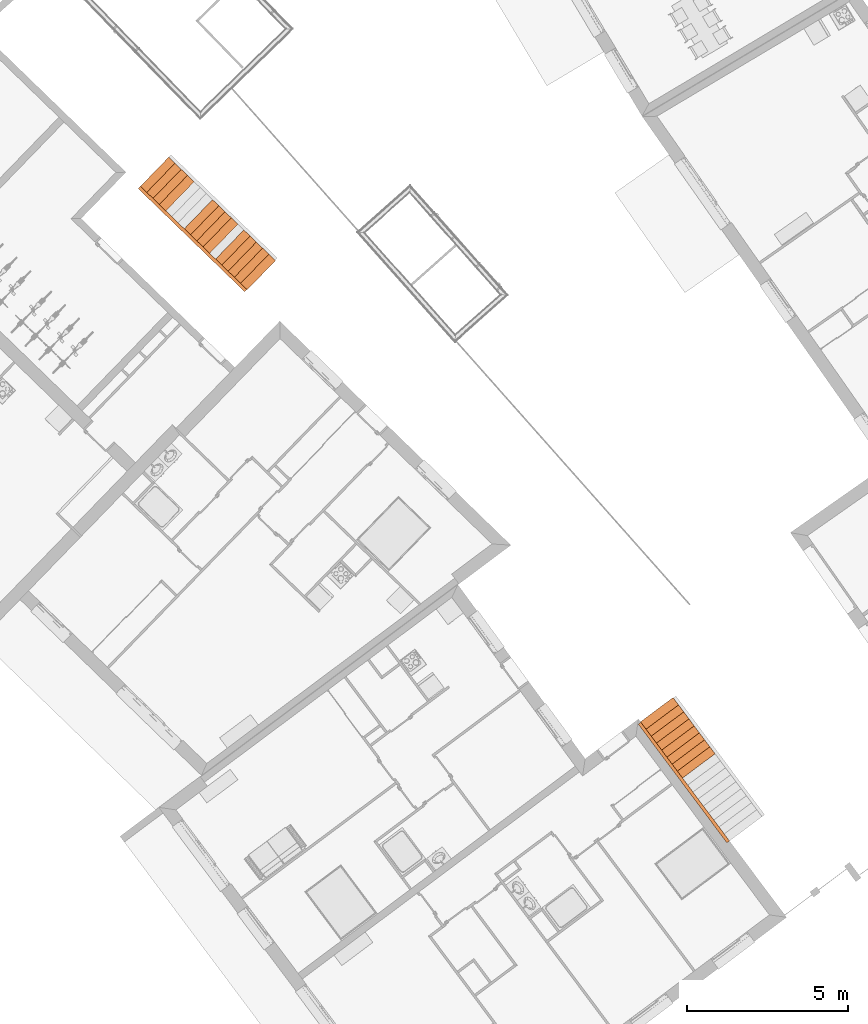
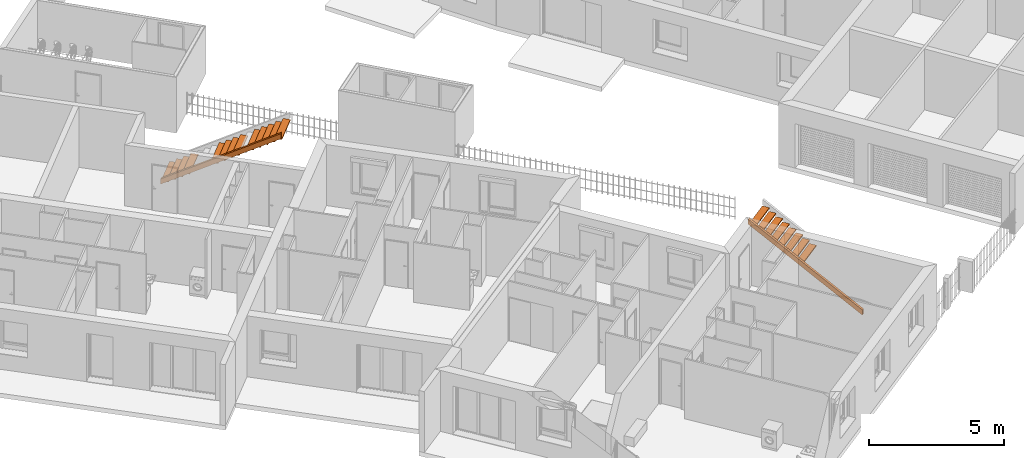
# One storey, part 182 of 195: 32 proxies, 3 elements without a shape of their own.
"""IFC2X3 building model written with IfcOpenShell, lengths in metres."""

import ifcopenshell
import ifcopenshell.guid

model = None  # the IFC model being written
_history = None  # IfcOwnerHistory: only IFC2X3 demands one
_inside = {}  # id of a spatial element -> (the spatial element, [elements in it])
_under = {}  # id of a project, library or spatial element -> (it, [spatial elements below it])
_declared = {}  # id of a project -> (the project, [libraries it declares])
_typed = {}  # id of a type object -> (the type object, [elements of that type])
_made_of = {}  # id of a material, layer set ... -> (it, [elements and type objects made of it])


def new_model(schema):
    """Start an empty IFC model of exactly this schema.

    Asked for "IFC4X3", IfcOpenShell would pick the latest addendum, in which some entities
    have other attributes; the version numbers below select the first issue.
    IFC2X3 requires an IfcOwnerHistory on every rooted entity: one is made here for all.
    """
    global model, _history
    if schema == "IFC4X3":
        model = ifcopenshell.file(schema_version=(4, 3, 0, 0))
    else:
        model = ifcopenshell.file(schema=schema)
    _inside.clear()
    _under.clear()
    _declared.clear()
    _typed.clear()
    _made_of.clear()
    _history = None
    if model.schema == "IFC2X3":
        org = make("IfcOrganization", Name="unknown")
        user = make(
            "IfcPersonAndOrganization",
            ThePerson=make("IfcPerson", FamilyName="unknown"),
            TheOrganization=org,
        )
        app = make(
            "IfcApplication",
            ApplicationDeveloper=org,
            Version="unknown",
            ApplicationFullName="unknown",
            ApplicationIdentifier="unknown",
        )
        _history = make(
            "IfcOwnerHistory",
            OwningUser=user,
            OwningApplication=app,
            ChangeAction="ADDED",
            CreationDate=0,
        )
    return model


def make(cls, **values):
    """One entity of the class cls with the attributes given. An attribute that is None is left unset."""
    return model.create_entity(
        cls, **{name: value for name, value in values.items() if value is not None}
    )


def entity(cls, *values):
    """Any entity or typed value of the class cls, its attributes in the order of the schema. None: left unset."""
    e = model.create_entity(cls)
    for i, value in enumerate(values):
        if value is not None:
            e[i] = value
    return e


def rooted(cls, **values):
    """An entity with a GlobalId (a new one), such as an element, a storey or a relation."""
    return make(cls, GlobalId=ifcopenshell.guid.new(), OwnerHistory=_history, **values)


def si_unit(unit_type, name, prefix=None):
    """IfcSIUnit, for example si_unit("LENGTHUNIT", "METRE", prefix="MILLI")."""
    return make("IfcSIUnit", UnitType=unit_type, Prefix=prefix, Name=name)


def converted_unit(unit_type, name, factor, base, dimensions=None, offset=None):
    """IfcConversionBasedUnit, such as the inch: factor (a typed value) times the base unit."""
    return make(
        "IfcConversionBasedUnit"
        if offset is None
        else "IfcConversionBasedUnitWithOffset",
        ConversionOffset=offset,
        Dimensions=None
        if dimensions is None
        else entity("IfcDimensionalExponents", *dimensions),
        UnitType=unit_type,
        Name=name,
        ConversionFactor=make(
            "IfcMeasureWithUnit", ValueComponent=factor, UnitComponent=base
        ),
    )


def derived_unit(unit_type, elements):
    """IfcDerivedUnit: a product of units, each with its exponent."""
    return make(
        "IfcDerivedUnit",
        Elements=[
            make("IfcDerivedUnitElement", Unit=unit, Exponent=power)
            for unit, power in elements
        ],
        UnitType=unit_type,
    )


def money_unit(currency):
    """IfcMonetaryUnit."""
    return make("IfcMonetaryUnit", Currency=currency)


def assignment(units):
    """IfcUnitAssignment: the units of a project."""
    return None if units is None else make("IfcUnitAssignment", Units=units)


def point(xyz):
    """IfcCartesianPoint."""
    return None if xyz is None else make("IfcCartesianPoint", Coordinates=xyz)


def direction(xyz):
    """IfcDirection."""
    return None if xyz is None else make("IfcDirection", DirectionRatios=xyz)


def frame(location, z_axis=None, x_axis=None):
    """IfcAxis2Placement3D, a coordinate frame: its origin and axes. An axis left out is left unset."""
    return make(
        "IfcAxis2Placement3D",
        Location=point(location),
        Axis=direction(z_axis),
        RefDirection=direction(x_axis),
    )


def origin_with_axes():
    """The frame at (0, 0, 0) with the z axis (0, 0, 1) and the x axis (1, 0, 0) written out."""
    return frame((0.0, 0.0, 0.0), z_axis=(0.0, 0.0, 1.0), x_axis=(1.0, 0.0, 0.0))


def place(relative_to, where):
    """IfcLocalPlacement: puts the frame where relative to a parent placement (None: the world)."""
    return make(
        "IfcLocalPlacement", PlacementRelTo=relative_to, RelativePlacement=where
    )


def context(
    kind, dimensions, precision=None, world=None, true_north=None, identifier=None
):
    """IfcGeometricRepresentationContext, for example the 3D "Model" context."""
    return make(
        "IfcGeometricRepresentationContext",
        ContextIdentifier=identifier,
        ContextType=kind,
        CoordinateSpaceDimension=dimensions,
        Precision=precision,
        WorldCoordinateSystem=world,
        TrueNorth=true_north,
    )


def subcontext(parent, identifier, kind, view, scale=None):
    """IfcGeometricRepresentationSubContext, for example "Body" below "Model"."""
    return make(
        "IfcGeometricRepresentationSubContext",
        ContextIdentifier=identifier,
        ContextType=kind,
        ParentContext=parent,
        TargetScale=scale,
        TargetView=view,
    )


def project(units=None, contexts=None):
    """IfcProject with its units and contexts."""
    return rooted(
        "IfcProject",
        Name="project",
        RepresentationContexts=contexts,
        UnitsInContext=assignment(units),
    )


def spatial(cls, under=None, at=None, **own):
    """A site, building, storey or space (cls), placed at a placement, below another one or the project."""
    s = rooted(cls, ObjectPlacement=at, **own)
    if under is not None:
        _under.setdefault(under.id(), (under, []))[1].append(s)
    return s


def faces_of(points, faces, orient=None, outer=None):
    """IfcFace entities. A face is a list of loops; a loop is a list of indices into points, from 0.

    orient and outer hold one flag for each loop. By default every Orientation is true, the
    first loop of a face is its IfcFaceOuterBound and the others are IfcFaceBound.
    """
    made = []
    for i, loops in enumerate(faces):
        bounds = []
        for j, loop in enumerate(loops):
            is_outer = j == 0 if outer is None else outer[i][j]
            bounds.append(
                make(
                    "IfcFaceOuterBound" if is_outer else "IfcFaceBound",
                    Bound=make("IfcPolyLoop", Polygon=[points[k] for k in loop]),
                    Orientation=True if orient is None else orient[i][j],
                )
            )
        made.append(make("IfcFace", Bounds=bounds))
    return made


def faceted_brep(points, faces, orient=None, outer=None, voids=None):
    """IfcFacetedBrep: a solid bounded by flat faces; with voids (closed shells), ...WithVoids."""
    shared = [point(p) for p in points]
    hull = make("IfcClosedShell", CfsFaces=faces_of(shared, faces, orient, outer))
    if voids is None:
        return make("IfcFacetedBrep", Outer=hull)
    return make(
        "IfcFacetedBrepWithVoids",
        Outer=hull,
        Voids=[
            make(cls, CfsFaces=faces_of(shared, fs, o, b)) for cls, fs, o, b in voids
        ],
    )


def shape(context_of_items, identifier, shape_type, items):
    """IfcShapeRepresentation: the items that make up one representation, for example the "Body"."""
    return make(
        "IfcShapeRepresentation",
        ContextOfItems=context_of_items,
        RepresentationIdentifier=identifier,
        RepresentationType=shape_type,
        Items=items,
    )


def material(Name=None, Category=None):
    """IfcMaterial."""
    return make("IfcMaterial", Name=Name, Category=Category)


def made_of(thing, what):
    """Note that an element or type object is made of a material, layer set ...; save() writes the relation."""
    if what is not None:
        _made_of.setdefault(what.id(), (what, []))[1].append(thing)
    return thing


def type_object(cls, material=None, **own):
    """A type object (cls), such as IfcWallType, which elements share."""
    return made_of(rooted(cls, **own), material)


def element(
    cls,
    number,
    at=None,
    inside=None,
    cuts=None,
    type_object=None,
    material=None,
    context=None,
    identifier="Body",
    shape_type=None,
    held_by="IfcProductDefinitionShape",
    body=None,
    shapes=None,
    **own,
):
    """One element of the class cls, such as IfcWall. Its Tag is "e" and its number.

    at: its placement. inside: the storey or other place that contains it. cuts: it is an
    opening in that element (IfcRelVoidsElement). A single representation is given by context,
    identifier, shape_type and body (its items); several are given by shapes. held_by: the class
    of the entity that holds the representations. save() writes the other relations.
    """
    e = rooted(cls, Tag="e%d" % number, ObjectPlacement=at, **own)
    if body is not None:
        shapes = [shape(context, identifier, shape_type, body)]
    if shapes is not None:
        e.Representation = make(held_by, Representations=shapes)
    if inside is not None:
        _inside.setdefault(inside.id(), (inside, []))[1].append(e)
    if cuts is not None:
        rooted(
            "IfcRelVoidsElement", RelatingBuildingElement=cuts, RelatedOpeningElement=e
        )
    if type_object is not None:
        _typed.setdefault(type_object.id(), (type_object, []))[1].append(e)
    return made_of(e, material)


def aggregate(whole, parts):
    """IfcRelAggregates: a whole, such as a stair, and the parts it consists of."""
    return rooted("IfcRelAggregates", RelatingObject=whole, RelatedObjects=parts)


def save(model, path):
    """Write the relations noted so far, then the file.

    IfcRelAggregates (storeys below a building ...), IfcRelContainedInSpatialStructure (elements
    in a storey), IfcRelDefinesByType, IfcRelAssociatesMaterial and IfcRelDeclares: one each for
    every whole, place, type object, material and project.
    """
    for whole, parts in _under.values():
        aggregate(whole, parts)
    for where, things in _inside.values():
        rooted(
            "IfcRelContainedInSpatialStructure",
            RelatedElements=things,
            RelatingStructure=where,
        )
    for kind, things in _typed.values():
        rooted("IfcRelDefinesByType", RelatedObjects=things, RelatingType=kind)
    for what, things in _made_of.values():
        rooted("IfcRelAssociatesMaterial", RelatedObjects=things, RelatingMaterial=what)
    for by, libraries in _declared.values():
        rooted("IfcRelDeclares", RelatingContext=by, RelatedDefinitions=libraries)
    model.write(path)


model = new_model("IFC2X3")

# Units and contexts
model_context = context("Model", 3, precision=1e-05, world=origin_with_axes(), true_north=direction((0.0, 1.0)))
body_context = subcontext(model_context, "Body", "Model", "MODEL_VIEW")
ifc_project = project(units=[si_unit("LENGTHUNIT", "METRE"), si_unit("AREAUNIT", "SQUARE_METRE"), si_unit("VOLUMEUNIT", "CUBIC_METRE"), converted_unit("PLANEANGLEUNIT", "DEGREE", entity("IfcPlaneAngleMeasure", 0.0174532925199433), si_unit("PLANEANGLEUNIT", "RADIAN"), dimensions=[0, 0, 0, 0, 0, 0, 0]), money_unit("CHF"), converted_unit("TIMEUNIT", "Year", entity("IfcTimeMeasure", 31557600.0), si_unit("TIMEUNIT", "SECOND"), dimensions=[0, 0, 1, 0, 0, 0, 0]), si_unit("MASSUNIT", "GRAM", prefix="KILO"), si_unit("THERMODYNAMICTEMPERATUREUNIT", "DEGREE_CELSIUS"), si_unit("LUMINOUSINTENSITYUNIT", "LUMEN"), si_unit("ENERGYUNIT", "JOULE", prefix="MEGA"), derived_unit("THERMALCONDUCTANCEUNIT", [(si_unit("POWERUNIT", "WATT"), 1), (si_unit("LENGTHUNIT", "METRE"), -1), (si_unit("THERMODYNAMICTEMPERATUREUNIT", "KELVIN"), -1)]), derived_unit("SPECIFICHEATCAPACITYUNIT", [(si_unit("ENERGYUNIT", "JOULE"), 1), (si_unit("MASSUNIT", "GRAM", prefix="KILO"), -1), (si_unit("THERMODYNAMICTEMPERATUREUNIT", "KELVIN"), -1)]), derived_unit("MASSDENSITYUNIT", [(si_unit("MASSUNIT", "GRAM", prefix="KILO"), 1), (si_unit("VOLUMEUNIT", "CUBIC_METRE"), -1)])], contexts=[model_context])

# Site, building, storey
site_placement = place(None, origin_with_axes())
site = spatial("IfcSite", under=ifc_project, at=site_placement, Name="Site", CompositionType="ELEMENT")
building_placement = place(site_placement, origin_with_axes())
building = spatial("IfcBuilding", under=site, at=building_placement, Name="Bâtiment", CompositionType="ELEMENT")
storey_placement = place(building_placement, origin_with_axes())
storey = spatial("IfcBuildingStorey", under=building, at=storey_placement, Name="rdc", CompositionType="ELEMENT", Elevation=0.0)

# Stair, proxies
stair_1_placement = place(storey_placement, frame((9546.930300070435, -1076.908665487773, 57.33248236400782), z_axis=(0.0, 0.0, 1.0), x_axis=(0.7879032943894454, -0.6157989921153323, 0.0)))
stair_1 = element("IfcStair", 1, at=stair_1_placement, inside=storey, Name="ESC-028", ShapeType="NOTDEFINED")
ifc_material_1 = material(Name="Isolant styromousse 288701002")
building_element_proxy_type = type_object("IfcBuildingElementProxyType", Name="IfcBuildingElementProxy", PredefinedType="NOTDEFINED")
proxy_1_placement = place(stair_1_placement, origin_with_axes())
proxy_1 = element("IfcBuildingElementProxy", 2, at=proxy_1_placement, type_object=building_element_proxy_type, material=ifc_material_1, Name="SS - 039", context=body_context, shape_type="Brep", body=[
    faceted_brep([(-4.785391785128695, -0.1038036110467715, 2.882482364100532), (-0.3566463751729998, -1.309753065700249, 0.04914903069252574), (-0.3566463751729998, -1.309753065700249, 0.2841843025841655), (-4.785391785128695, -0.1038036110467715, 3.117517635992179), (-4.75911837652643, -0.007316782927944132, 2.882482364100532), (-0.3303729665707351, -1.213266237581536, 0.04914903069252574), (-0.3303729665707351, -1.213266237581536, 0.2841843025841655), (-4.75911837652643, -0.007316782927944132, 3.117517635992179)], [[[0, 1, 2, 3]], [[4, 5, 1, 0]], [[2, 1, 5, 6]], [[3, 2, 6, 7]], [[7, 4, 0, 3]], [[7, 6, 5, 4]]]),
])
ifc_material_2 = material(Name="Lame d'air 275581351")
proxy_2_placement = place(stair_1_placement, frame((-2.732570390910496, 0.2414209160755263, 1.833333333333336), z_axis=(0.0, 0.0, 1.0), x_axis=(-0.2627340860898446, -0.9648682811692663, 0.0)))
proxy_2 = element("IfcBuildingElementProxy", 3, at=proxy_2_placement, type_object=building_element_proxy_type, material=ifc_material_2, Name="MARCHE-547", context=body_context, shape_type="Brep", body=[
    faceted_brep([(-0.4850000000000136, 0.0, -0.04999999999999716), (-0.4850000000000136, 0.0, 0.0), (0.7724423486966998, -2.853539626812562e-10, 0.0), (0.7724423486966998, -2.853539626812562e-10, -0.04999999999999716), (-0.4849999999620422, -0.2849999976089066, -0.04999999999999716), (-0.4849999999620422, -0.2849999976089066, 0.0), (0.7724423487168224, -0.2849999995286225, 0.0), (0.7724423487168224, -0.2849999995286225, -0.04999999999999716)], [[[0, 1, 2, 3]], [[4, 5, 1, 0]], [[1, 5, 6, 2]], [[3, 2, 6, 7]], [[0, 3, 7, 4]], [[7, 6, 5, 4]]]),
])
proxy_3_placement = place(stair_1_placement, frame((-2.472055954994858, 0.1704827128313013, 1.666666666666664), z_axis=(0.0, 0.0, 1.0), x_axis=(-0.2627340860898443, -0.9648682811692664, 0.0)))
proxy_3 = element("IfcBuildingElementProxy", 4, at=proxy_3_placement, type_object=building_element_proxy_type, material=ifc_material_2, Name="MARCHE-546", context=body_context, shape_type="Brep", body=[
    faceted_brep([(-0.4849999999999, 0.0, -0.04999999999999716), (-0.4849999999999, 0.0, 0.0), (0.7724423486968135, -2.853539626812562e-10, 0.0), (0.7724423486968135, -2.853539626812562e-10, -0.04999999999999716), (-0.4849999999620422, -0.2849999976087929, -0.04999999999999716), (-0.4849999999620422, -0.2849999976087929, 0.0), (0.7724423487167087, -0.2849999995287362, 0.0), (0.7724423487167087, -0.2849999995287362, -0.04999999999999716)], [[[0, 1, 2, 3]], [[4, 5, 1, 0]], [[1, 5, 6, 2]], [[3, 2, 6, 7]], [[0, 3, 7, 4]], [[7, 6, 5, 4]]]),
])
proxy_4_placement = place(stair_1_placement, frame((-2.993084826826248, 0.3123591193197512, 2.0), z_axis=(0.0, 0.0, 1.0), x_axis=(-0.2627340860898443, -0.9648682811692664, 0.0)))
proxy_4 = element("IfcBuildingElementProxy", 5, at=proxy_4_placement, type_object=building_element_proxy_type, material=ifc_material_2, Name="MARCHE-548", context=body_context, shape_type="Brep", body=[
    faceted_brep([(-0.4850000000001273, 0.0, -0.04999999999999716), (-0.4850000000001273, 0.0, 0.0), (0.7724423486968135, -2.854676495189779e-10, 0.0), (0.7724423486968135, -2.854676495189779e-10, -0.04999999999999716), (-0.4849999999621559, -0.2849999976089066, -0.04999999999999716), (-0.4849999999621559, -0.2849999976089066, 0.0), (0.7724423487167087, -0.2849999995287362, 0.0), (0.7724423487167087, -0.2849999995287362, -0.04999999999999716)], [[[0, 1, 2, 3]], [[4, 5, 1, 0]], [[1, 5, 6, 2]], [[3, 2, 6, 7]], [[0, 3, 7, 4]], [[7, 6, 5, 4]]]),
])
proxy_5_placement = place(stair_1_placement, frame((-3.253599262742, 0.383297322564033, 2.166666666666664), z_axis=(0.0, 0.0, 1.0), x_axis=(-0.2627340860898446, -0.9648682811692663, 0.0)))
proxy_5 = element("IfcBuildingElementProxy", 6, at=proxy_5_placement, type_object=building_element_proxy_type, material=ifc_material_2, Name="MARCHE-549", context=body_context, shape_type="Brep", body=[
    faceted_brep([(-0.4849999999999, 0.0, -0.04999999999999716), (-0.4849999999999, 0.0, 0.0), (0.7724423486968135, -2.853539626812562e-10, 0.0), (0.7724423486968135, -2.853539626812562e-10, -0.04999999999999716), (-0.4849999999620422, -0.2849999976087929, -0.04999999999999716), (-0.4849999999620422, -0.2849999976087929, 0.0), (0.7724423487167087, -0.2849999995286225, 0.0), (0.7724423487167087, -0.2849999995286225, -0.04999999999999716)], [[[0, 1, 2, 3]], [[4, 5, 1, 0]], [[1, 5, 6, 2]], [[3, 2, 6, 7]], [[0, 3, 7, 4]], [[7, 6, 5, 4]]]),
])
proxy_6_placement = place(stair_1_placement, frame((-3.774628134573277, 0.5251737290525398, 2.5), z_axis=(0.0, 0.0, 1.0), x_axis=(-0.2627340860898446, -0.9648682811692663, 0.0)))
proxy_6 = element("IfcBuildingElementProxy", 7, at=proxy_6_placement, type_object=building_element_proxy_type, material=ifc_material_2, Name="MARCHE-551", context=body_context, shape_type="Brep", body=[
    faceted_brep([(-0.4849999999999, 0.0, -0.04999999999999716), (-0.4849999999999, 0.0, 0.0), (0.7724423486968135, -2.854676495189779e-10, 0.0), (0.7724423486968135, -2.854676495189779e-10, -0.04999999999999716), (-0.4849999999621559, -0.2849999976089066, -0.04999999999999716), (-0.4849999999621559, -0.2849999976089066, 0.0), (0.7724423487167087, -0.2849999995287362, 0.0), (0.7724423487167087, -0.2849999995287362, -0.04999999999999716)], [[[0, 1, 2, 3]], [[4, 5, 1, 0]], [[1, 5, 6, 2]], [[3, 2, 6, 7]], [[0, 3, 7, 4]], [[7, 6, 5, 4]]]),
])
proxy_7_placement = place(stair_1_placement, frame((-3.514113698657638, 0.4542355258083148, 2.333333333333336), z_axis=(0.0, 0.0, 1.0), x_axis=(-0.2627340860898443, -0.9648682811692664, 0.0)))
proxy_7 = element("IfcBuildingElementProxy", 8, at=proxy_7_placement, type_object=building_element_proxy_type, material=ifc_material_2, Name="MARCHE-550", context=body_context, shape_type="Brep", body=[
    faceted_brep([(-0.4850000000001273, 0.0, -0.04999999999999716), (-0.4850000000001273, 0.0, 0.0), (0.7724423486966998, -2.852402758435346e-10, 0.0), (0.7724423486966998, -2.852402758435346e-10, -0.04999999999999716), (-0.4849999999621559, -0.2849999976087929, -0.04999999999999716), (-0.4849999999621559, -0.2849999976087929, 0.0), (0.7724423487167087, -0.2849999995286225, 0.0), (0.7724423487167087, -0.2849999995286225, -0.04999999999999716)], [[[0, 1, 2, 3]], [[4, 5, 1, 0]], [[1, 5, 6, 2]], [[3, 2, 6, 7]], [[0, 3, 7, 4]], [[7, 6, 5, 4]]]),
])
proxy_8_placement = place(stair_1_placement, frame((-4.035142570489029, 0.5961119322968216, 2.666666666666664), z_axis=(0.0, 0.0, 1.0), x_axis=(-0.2627340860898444, -0.9648682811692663, 0.0)))
proxy_8 = element("IfcBuildingElementProxy", 9, at=proxy_8_placement, type_object=building_element_proxy_type, material=ifc_material_2, Name="MARCHE-552", context=body_context, shape_type="Brep", body=[
    faceted_brep([(-0.4850000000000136, 0.0, -0.04999999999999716), (-0.4850000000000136, 0.0, 0.0), (0.7724423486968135, -2.853539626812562e-10, 0.0), (0.7724423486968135, -2.853539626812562e-10, -0.04999999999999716), (-0.4849999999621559, -0.2849999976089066, -0.04999999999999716), (-0.4849999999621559, -0.2849999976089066, 0.0), (0.7724423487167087, -0.2849999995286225, 0.0), (0.7724423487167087, -0.2849999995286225, -0.04999999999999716)], [[[0, 1, 2, 3]], [[4, 5, 1, 0]], [[1, 5, 6, 2]], [[3, 2, 6, 7]], [[0, 3, 7, 4]], [[7, 6, 5, 4]]]),
])
proxy_9_placement = place(stair_1_placement, frame((-4.295657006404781, 0.6670501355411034, 2.833333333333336), z_axis=(0.0, 0.0, 1.0), x_axis=(-0.2627340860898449, -0.9648682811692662, 0.0)))
proxy_9 = element("IfcBuildingElementProxy", 10, at=proxy_9_placement, type_object=building_element_proxy_type, material=ifc_material_2, Name="MARCHE-553", context=body_context, shape_type="Brep", body=[
    faceted_brep([(-0.4849999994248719, 0.0, -0.04999999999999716), (-0.4849999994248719, 0.0, 0.0), (0.772442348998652, 0.0, 0.0), (0.772442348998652, 0.0, -0.04999999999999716), (-0.4849999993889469, -0.2699999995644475, -0.04999999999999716), (-0.4849999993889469, -0.2699999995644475, 0.0), (-0.4849999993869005, -0.2849999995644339, 0.0), (0.7724423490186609, -0.2849999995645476, 0.0), (0.7724423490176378, -0.2699999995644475, 0.0), (0.7724423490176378, -0.2699999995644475, -0.04999999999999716), (0.7724423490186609, -0.2849999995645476, -0.04999999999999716), (-0.4849999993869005, -0.2849999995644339, -0.04999999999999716)], [[[0, 1, 2, 3]], [[4, 5, 1, 0]], [[1, 5, 6, 7, 8, 2]], [[3, 2, 8, 9]], [[0, 3, 9, 10, 11, 4]], [[11, 6, 5, 4]], [[10, 7, 6, 11]], [[9, 8, 7, 10]]]),
])
aggregate(stair_1, [proxy_1, proxy_2, proxy_3, proxy_4, proxy_5, proxy_6, proxy_7, proxy_8, proxy_9])

stair_2_placement = place(storey_placement, frame((9546.930300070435, -1076.908665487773, 57.33248236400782), z_axis=(0.0, 0.0, 1.0), x_axis=(0.7879032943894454, -0.6157989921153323, 0.0)))
stair_2 = element("IfcStair", 11, at=stair_2_placement, inside=storey, Name="ESC-028", ShapeType="NOTDEFINED")
proxy_10_placement = place(stair_2_placement, origin_with_axes())
proxy_10 = element("IfcBuildingElementProxy", 12, at=proxy_10_placement, type_object=building_element_proxy_type, material=ifc_material_1, Name="SS - 039", context=body_context, shape_type="Brep", body=[
    faceted_brep([(-4.785391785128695, -0.1038036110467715, 2.882482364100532), (-0.3566463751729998, -1.309753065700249, 0.04914903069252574), (-0.3566463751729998, -1.309753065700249, 0.2841843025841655), (-4.785391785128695, -0.1038036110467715, 3.117517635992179), (-4.75911837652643, -0.007316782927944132, 2.882482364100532), (-0.3303729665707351, -1.213266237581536, 0.04914903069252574), (-0.3303729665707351, -1.213266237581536, 0.2841843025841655), (-4.75911837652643, -0.007316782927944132, 3.117517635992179)], [[[0, 1, 2, 3]], [[4, 5, 1, 0]], [[2, 1, 5, 6]], [[3, 2, 6, 7]], [[7, 4, 0, 3]], [[7, 6, 5, 4]]]),
])
proxy_11_placement = place(stair_2_placement, frame((-2.472055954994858, 0.1704827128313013, 1.666666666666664), z_axis=(0.0, 0.0, 1.0), x_axis=(-0.2627340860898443, -0.9648682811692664, 0.0)))
proxy_11 = element("IfcBuildingElementProxy", 13, at=proxy_11_placement, type_object=building_element_proxy_type, material=ifc_material_2, Name="MARCHE-546", context=body_context, shape_type="Brep", body=[
    faceted_brep([(-0.4849999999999, 0.0, -0.04999999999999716), (-0.4849999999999, 0.0, 0.0), (0.7724423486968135, -2.853539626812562e-10, 0.0), (0.7724423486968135, -2.853539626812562e-10, -0.04999999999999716), (-0.4849999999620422, -0.2849999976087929, -0.04999999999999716), (-0.4849999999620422, -0.2849999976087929, 0.0), (0.7724423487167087, -0.2849999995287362, 0.0), (0.7724423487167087, -0.2849999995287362, -0.04999999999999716)], [[[0, 1, 2, 3]], [[4, 5, 1, 0]], [[1, 5, 6, 2]], [[3, 2, 6, 7]], [[0, 3, 7, 4]], [[7, 6, 5, 4]]]),
])
proxy_12_placement = place(stair_2_placement, frame((-2.732570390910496, 0.2414209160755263, 1.833333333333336), z_axis=(0.0, 0.0, 1.0), x_axis=(-0.2627340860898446, -0.9648682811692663, 0.0)))
proxy_12 = element("IfcBuildingElementProxy", 14, at=proxy_12_placement, type_object=building_element_proxy_type, material=ifc_material_2, Name="MARCHE-547", context=body_context, shape_type="Brep", body=[
    faceted_brep([(-0.4850000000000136, 0.0, -0.04999999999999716), (-0.4850000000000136, 0.0, 0.0), (0.7724423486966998, -2.853539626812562e-10, 0.0), (0.7724423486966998, -2.853539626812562e-10, -0.04999999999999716), (-0.4849999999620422, -0.2849999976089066, -0.04999999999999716), (-0.4849999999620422, -0.2849999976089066, 0.0), (0.7724423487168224, -0.2849999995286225, 0.0), (0.7724423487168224, -0.2849999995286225, -0.04999999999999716)], [[[0, 1, 2, 3]], [[4, 5, 1, 0]], [[1, 5, 6, 2]], [[3, 2, 6, 7]], [[0, 3, 7, 4]], [[7, 6, 5, 4]]]),
])
proxy_13_placement = place(stair_2_placement, frame((-2.993084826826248, 0.3123591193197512, 2.0), z_axis=(0.0, 0.0, 1.0), x_axis=(-0.2627340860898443, -0.9648682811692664, 0.0)))
proxy_13 = element("IfcBuildingElementProxy", 15, at=proxy_13_placement, type_object=building_element_proxy_type, material=ifc_material_2, Name="MARCHE-548", context=body_context, shape_type="Brep", body=[
    faceted_brep([(-0.4850000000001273, 0.0, -0.04999999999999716), (-0.4850000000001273, 0.0, 0.0), (0.7724423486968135, -2.854676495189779e-10, 0.0), (0.7724423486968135, -2.854676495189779e-10, -0.04999999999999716), (-0.4849999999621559, -0.2849999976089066, -0.04999999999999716), (-0.4849999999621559, -0.2849999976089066, 0.0), (0.7724423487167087, -0.2849999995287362, 0.0), (0.7724423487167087, -0.2849999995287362, -0.04999999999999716)], [[[0, 1, 2, 3]], [[4, 5, 1, 0]], [[1, 5, 6, 2]], [[3, 2, 6, 7]], [[0, 3, 7, 4]], [[7, 6, 5, 4]]]),
])
proxy_14_placement = place(stair_2_placement, frame((-3.514113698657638, 0.4542355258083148, 2.333333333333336), z_axis=(0.0, 0.0, 1.0), x_axis=(-0.2627340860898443, -0.9648682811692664, 0.0)))
proxy_14 = element("IfcBuildingElementProxy", 16, at=proxy_14_placement, type_object=building_element_proxy_type, material=ifc_material_2, Name="MARCHE-550", context=body_context, shape_type="Brep", body=[
    faceted_brep([(-0.4850000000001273, 0.0, -0.04999999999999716), (-0.4850000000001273, 0.0, 0.0), (0.7724423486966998, -2.852402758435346e-10, 0.0), (0.7724423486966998, -2.852402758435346e-10, -0.04999999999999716), (-0.4849999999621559, -0.2849999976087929, -0.04999999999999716), (-0.4849999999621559, -0.2849999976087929, 0.0), (0.7724423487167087, -0.2849999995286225, 0.0), (0.7724423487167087, -0.2849999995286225, -0.04999999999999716)], [[[0, 1, 2, 3]], [[4, 5, 1, 0]], [[1, 5, 6, 2]], [[3, 2, 6, 7]], [[0, 3, 7, 4]], [[7, 6, 5, 4]]]),
])
proxy_15_placement = place(stair_2_placement, frame((-3.774628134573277, 0.5251737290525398, 2.5), z_axis=(0.0, 0.0, 1.0), x_axis=(-0.2627340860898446, -0.9648682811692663, 0.0)))
proxy_15 = element("IfcBuildingElementProxy", 17, at=proxy_15_placement, type_object=building_element_proxy_type, material=ifc_material_2, Name="MARCHE-551", context=body_context, shape_type="Brep", body=[
    faceted_brep([(-0.4849999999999, 0.0, -0.04999999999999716), (-0.4849999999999, 0.0, 0.0), (0.7724423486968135, -2.854676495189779e-10, 0.0), (0.7724423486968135, -2.854676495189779e-10, -0.04999999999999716), (-0.4849999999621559, -0.2849999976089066, -0.04999999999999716), (-0.4849999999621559, -0.2849999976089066, 0.0), (0.7724423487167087, -0.2849999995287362, 0.0), (0.7724423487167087, -0.2849999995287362, -0.04999999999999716)], [[[0, 1, 2, 3]], [[4, 5, 1, 0]], [[1, 5, 6, 2]], [[3, 2, 6, 7]], [[0, 3, 7, 4]], [[7, 6, 5, 4]]]),
])
proxy_16_placement = place(stair_2_placement, frame((-4.035142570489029, 0.5961119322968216, 2.666666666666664), z_axis=(0.0, 0.0, 1.0), x_axis=(-0.2627340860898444, -0.9648682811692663, 0.0)))
proxy_16 = element("IfcBuildingElementProxy", 18, at=proxy_16_placement, type_object=building_element_proxy_type, material=ifc_material_2, Name="MARCHE-552", context=body_context, shape_type="Brep", body=[
    faceted_brep([(-0.4850000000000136, 0.0, -0.04999999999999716), (-0.4850000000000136, 0.0, 0.0), (0.7724423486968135, -2.853539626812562e-10, 0.0), (0.7724423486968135, -2.853539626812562e-10, -0.04999999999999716), (-0.4849999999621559, -0.2849999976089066, -0.04999999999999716), (-0.4849999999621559, -0.2849999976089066, 0.0), (0.7724423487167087, -0.2849999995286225, 0.0), (0.7724423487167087, -0.2849999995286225, -0.04999999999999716)], [[[0, 1, 2, 3]], [[4, 5, 1, 0]], [[1, 5, 6, 2]], [[3, 2, 6, 7]], [[0, 3, 7, 4]], [[7, 6, 5, 4]]]),
])
proxy_17_placement = place(stair_2_placement, frame((-3.253599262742, 0.383297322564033, 2.166666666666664), z_axis=(0.0, 0.0, 1.0), x_axis=(-0.2627340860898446, -0.9648682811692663, 0.0)))
proxy_17 = element("IfcBuildingElementProxy", 19, at=proxy_17_placement, type_object=building_element_proxy_type, material=ifc_material_2, Name="MARCHE-549", context=body_context, shape_type="Brep", body=[
    faceted_brep([(-0.4849999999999, 0.0, -0.04999999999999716), (-0.4849999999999, 0.0, 0.0), (0.7724423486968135, -2.853539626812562e-10, 0.0), (0.7724423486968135, -2.853539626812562e-10, -0.04999999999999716), (-0.4849999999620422, -0.2849999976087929, -0.04999999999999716), (-0.4849999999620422, -0.2849999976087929, 0.0), (0.7724423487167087, -0.2849999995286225, 0.0), (0.7724423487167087, -0.2849999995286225, -0.04999999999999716)], [[[0, 1, 2, 3]], [[4, 5, 1, 0]], [[1, 5, 6, 2]], [[3, 2, 6, 7]], [[0, 3, 7, 4]], [[7, 6, 5, 4]]]),
])
proxy_18_placement = place(stair_2_placement, frame((-4.295657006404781, 0.6670501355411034, 2.833333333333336), z_axis=(0.0, 0.0, 1.0), x_axis=(-0.2627340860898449, -0.9648682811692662, 0.0)))
proxy_18 = element("IfcBuildingElementProxy", 20, at=proxy_18_placement, type_object=building_element_proxy_type, material=ifc_material_2, Name="MARCHE-553", context=body_context, shape_type="Brep", body=[
    faceted_brep([(-0.4849999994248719, 0.0, -0.04999999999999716), (-0.4849999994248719, 0.0, 0.0), (0.772442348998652, 0.0, 0.0), (0.772442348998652, 0.0, -0.04999999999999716), (-0.4849999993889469, -0.2699999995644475, -0.04999999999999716), (-0.4849999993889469, -0.2699999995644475, 0.0), (-0.4849999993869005, -0.2849999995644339, 0.0), (0.7724423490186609, -0.2849999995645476, 0.0), (0.7724423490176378, -0.2699999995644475, 0.0), (0.7724423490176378, -0.2699999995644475, -0.04999999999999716), (0.7724423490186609, -0.2849999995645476, -0.04999999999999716), (-0.4849999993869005, -0.2849999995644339, -0.04999999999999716)], [[[0, 1, 2, 3]], [[4, 5, 1, 0]], [[1, 5, 6, 7, 8, 2]], [[3, 2, 8, 9]], [[0, 3, 9, 10, 11, 4]], [[11, 6, 5, 4]], [[10, 7, 6, 11]], [[9, 8, 7, 10]]]),
])
aggregate(stair_2, [proxy_10, proxy_11, proxy_12, proxy_13, proxy_14, proxy_15, proxy_16, proxy_17, proxy_18])

stair_3_placement = place(storey_placement, frame((9527.675793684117, -1057.380353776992, 57.33248236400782), z_axis=(0.0, 0.0, 1.0), x_axis=(-0.8757720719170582, 0.4827248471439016, 0.0)))
stair_3 = element("IfcStair", 21, at=stair_3_placement, inside=storey, Name="ESC-028", ShapeType="NOTDEFINED")
proxy_19_placement = place(stair_3_placement, origin_with_axes())
proxy_19 = element("IfcBuildingElementProxy", 22, at=proxy_19_placement, type_object=building_element_proxy_type, material=ifc_material_1, Name="SS - 039", context=body_context, shape_type="Brep", body=[
    faceted_brep([(-4.428745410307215, 1.205949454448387, 2.882482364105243), (0.0, 0.0, 0.04914903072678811), (0.0, 0.0, 0.2841843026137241), (-4.428745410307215, 1.205949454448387, 3.117517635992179), (-4.402472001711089, 1.302436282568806, 2.882482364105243), (0.02627340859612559, 0.09648682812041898, 0.04914903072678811), (0.02627340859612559, 0.09648682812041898, 0.2841843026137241), (-4.402472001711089, 1.302436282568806, 3.117517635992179)], [[[0, 1, 2, 3]], [[4, 5, 1, 0]], [[2, 1, 5, 6]], [[3, 2, 6, 7]], [[7, 4, 0, 3]], [[7, 6, 5, 4]]]),
])
proxy_20_placement = place(stair_3_placement, frame((-0.1274260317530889, -0.4679611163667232, 0.1666666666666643), z_axis=(0.0, 0.0, 1.0), x_axis=(-0.2627340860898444, -0.9648682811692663, 0.0)))
proxy_20 = element("IfcBuildingElementProxy", 23, at=proxy_20_placement, type_object=building_element_proxy_type, material=ifc_material_2, Name="MARCHE-537", context=body_context, shape_type="Brep", body=[
    faceted_brep([(-0.4850000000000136, 0.0, -0.04999999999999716), (-0.4850000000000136, 0.0, 0.0), (0.7724423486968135, -2.853539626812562e-10, 0.0), (0.7724423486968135, -2.853539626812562e-10, -0.04999999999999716), (-0.4849999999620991, -0.2849999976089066, -0.04999999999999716), (-0.4849999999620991, -0.2849999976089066, 0.0), (0.7724423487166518, -0.2849999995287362, 0.0), (0.7724423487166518, -0.2849999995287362, -0.04999999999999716)], [[[0, 1, 2, 3]], [[4, 5, 1, 0]], [[1, 5, 6, 2]], [[3, 2, 6, 7]], [[0, 3, 7, 4]], [[7, 6, 5, 4]]]),
])
proxy_21_placement = place(stair_3_placement, frame((-0.3879404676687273, -0.3970229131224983, 0.3333333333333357), z_axis=(0.0, 0.0, 1.0), x_axis=(-0.2627340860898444, -0.9648682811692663, 0.0)))
proxy_21 = element("IfcBuildingElementProxy", 24, at=proxy_21_placement, type_object=building_element_proxy_type, material=ifc_material_2, Name="MARCHE-538", context=body_context, shape_type="Brep", body=[
    faceted_brep([(-0.4849999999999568, 0.0, -0.04999999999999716), (-0.4849999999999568, 0.0, 0.0), (0.7724423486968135, -2.852402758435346e-10, 0.0), (0.7724423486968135, -2.852402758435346e-10, -0.04999999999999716), (-0.4849999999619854, -0.2849999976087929, -0.04999999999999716), (-0.4849999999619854, -0.2849999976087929, 0.0), (0.7724423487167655, -0.2849999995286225, 0.0), (0.7724423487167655, -0.2849999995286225, -0.04999999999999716)], [[[0, 1, 2, 3]], [[4, 5, 1, 0]], [[1, 5, 6, 2]], [[3, 2, 6, 7]], [[0, 3, 7, 4]], [[7, 6, 5, 4]]]),
])
proxy_22_placement = place(stair_3_placement, frame((-0.9089693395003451, -0.2551465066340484, 0.6666666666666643), z_axis=(0.0, 0.0, 1.0), x_axis=(-0.2627340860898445, -0.9648682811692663, 0.0)))
proxy_22 = element("IfcBuildingElementProxy", 25, at=proxy_22_placement, type_object=building_element_proxy_type, material=ifc_material_2, Name="MARCHE-540", context=body_context, shape_type="Brep", body=[
    faceted_brep([(-0.4849999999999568, 0.0, -0.04999999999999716), (-0.4849999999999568, 0.0, 0.0), (0.7724423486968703, -2.852402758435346e-10, 0.0), (0.7724423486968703, -2.852402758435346e-10, -0.04999999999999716), (-0.4849999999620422, -0.2849999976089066, -0.04999999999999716), (-0.4849999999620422, -0.2849999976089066, 0.0), (0.7724423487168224, -0.2849999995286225, 0.0), (0.7724423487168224, -0.2849999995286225, -0.04999999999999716)], [[[0, 1, 2, 3]], [[4, 5, 1, 0]], [[1, 5, 6, 2]], [[3, 2, 6, 7]], [[0, 3, 7, 4]], [[7, 6, 5, 4]]]),
])
proxy_23_placement = place(stair_3_placement, frame((-0.6484549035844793, -0.3260847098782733, 0.5), z_axis=(0.0, 0.0, 1.0), x_axis=(-0.2627340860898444, -0.9648682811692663, 0.0)))
proxy_23 = element("IfcBuildingElementProxy", 26, at=proxy_23_placement, type_object=building_element_proxy_type, material=ifc_material_2, Name="MARCHE-539", context=body_context, shape_type="Brep", body=[
    faceted_brep([(-0.4849999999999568, 0.0, -0.04999999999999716), (-0.4849999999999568, 0.0, 0.0), (0.7724423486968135, -2.853539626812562e-10, 0.0), (0.7724423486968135, -2.853539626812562e-10, -0.04999999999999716), (-0.4849999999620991, -0.2849999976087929, -0.04999999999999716), (-0.4849999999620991, -0.2849999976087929, 0.0), (0.7724423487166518, -0.2849999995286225, 0.0), (0.7724423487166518, -0.2849999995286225, -0.04999999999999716)], [[[0, 1, 2, 3]], [[4, 5, 1, 0]], [[1, 5, 6, 2]], [[3, 2, 6, 7]], [[0, 3, 7, 4]], [[7, 6, 5, 4]]]),
])
proxy_24_placement = place(stair_3_placement, frame((-1.951027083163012, 0.02860630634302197, 1.333333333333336), z_axis=(0.0, 0.0, 1.0), x_axis=(-0.2627340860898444, -0.9648682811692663, 0.0)))
proxy_24 = element("IfcBuildingElementProxy", 27, at=proxy_24_placement, type_object=building_element_proxy_type, material=ifc_material_2, Name="MARCHE-544", context=body_context, shape_type="Brep", body=[
    faceted_brep([(-0.4849999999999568, 0.0, -0.04999999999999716), (-0.4849999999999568, 0.0, 0.0), (0.7724423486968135, -2.852402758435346e-10, 0.0), (0.7724423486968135, -2.852402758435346e-10, -0.04999999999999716), (-0.4849999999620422, -0.2849999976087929, -0.04999999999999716), (-0.4849999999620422, -0.2849999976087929, 0.0), (0.7724423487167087, -0.2849999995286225, 0.0), (0.7724423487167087, -0.2849999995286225, -0.04999999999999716)], [[[0, 1, 2, 3]], [[4, 5, 1, 0]], [[1, 5, 6, 2]], [[3, 2, 6, 7]], [[0, 3, 7, 4]], [[7, 6, 5, 4]]]),
])
proxy_25_placement = place(stair_3_placement, frame((-2.211541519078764, 0.09954450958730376, 1.5), z_axis=(0.0, 0.0, 1.0), x_axis=(-0.2627340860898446, -0.9648682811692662, 0.0)))
proxy_25 = element("IfcBuildingElementProxy", 28, at=proxy_25_placement, type_object=building_element_proxy_type, material=ifc_material_2, Name="MARCHE-545", context=body_context, shape_type="Brep", body=[
    faceted_brep([(-0.4850000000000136, 0.0, -0.04999999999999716), (-0.4850000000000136, 0.0, 0.0), (0.7724423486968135, -2.853539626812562e-10, 0.0), (0.7724423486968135, -2.853539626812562e-10, -0.04999999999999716), (-0.4849999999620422, -0.2849999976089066, -0.04999999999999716), (-0.4849999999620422, -0.2849999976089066, 0.0), (0.7724423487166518, -0.2849999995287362, 0.0), (0.7724423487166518, -0.2849999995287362, -0.04999999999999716)], [[[0, 1, 2, 3]], [[4, 5, 1, 0]], [[1, 5, 6, 2]], [[3, 2, 6, 7]], [[0, 3, 7, 4]], [[7, 6, 5, 4]]]),
])
proxy_26_placement = place(stair_3_placement, frame((-2.472055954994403, 0.1704827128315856, 1.666666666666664), z_axis=(0.0, 0.0, 1.0), x_axis=(-0.2627340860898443, -0.9648682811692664, 0.0)))
proxy_26 = element("IfcBuildingElementProxy", 29, at=proxy_26_placement, type_object=building_element_proxy_type, material=ifc_material_2, Name="MARCHE-546", context=body_context, shape_type="Brep", body=[
    faceted_brep([(-0.4849999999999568, 0.0, -0.04999999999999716), (-0.4849999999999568, 0.0, 0.0), (0.7724423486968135, -2.854676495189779e-10, 0.0), (0.7724423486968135, -2.854676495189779e-10, -0.04999999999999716), (-0.4849999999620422, -0.2849999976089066, -0.04999999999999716), (-0.4849999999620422, -0.2849999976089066, 0.0), (0.7724423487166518, -0.2849999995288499, 0.0), (0.7724423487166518, -0.2849999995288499, -0.04999999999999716)], [[[0, 1, 2, 3]], [[4, 5, 1, 0]], [[1, 5, 6, 2]], [[3, 2, 6, 7]], [[0, 3, 7, 4]], [[7, 6, 5, 4]]]),
])
proxy_27_placement = place(stair_3_placement, frame((-2.732570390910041, 0.2414209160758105, 1.833333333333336), z_axis=(0.0, 0.0, 1.0), x_axis=(-0.2627340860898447, -0.9648682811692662, 0.0)))
proxy_27 = element("IfcBuildingElementProxy", 30, at=proxy_27_placement, type_object=building_element_proxy_type, material=ifc_material_2, Name="MARCHE-547", context=body_context, shape_type="Brep", body=[
    faceted_brep([(-0.4850000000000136, 0.0, -0.04999999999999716), (-0.4850000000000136, 0.0, 0.0), (0.7724423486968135, -2.854676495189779e-10, 0.0), (0.7724423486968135, -2.854676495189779e-10, -0.04999999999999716), (-0.4849999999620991, -0.2849999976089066, -0.04999999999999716), (-0.4849999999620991, -0.2849999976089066, 0.0), (0.7724423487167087, -0.2849999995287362, 0.0), (0.7724423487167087, -0.2849999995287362, -0.04999999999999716)], [[[0, 1, 2, 3]], [[4, 5, 1, 0]], [[1, 5, 6, 2]], [[3, 2, 6, 7]], [[0, 3, 7, 4]], [[7, 6, 5, 4]]]),
])
proxy_28_placement = place(stair_3_placement, frame((-3.253599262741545, 0.3832973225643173, 2.166666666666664), z_axis=(0.0, 0.0, 1.0), x_axis=(-0.2627340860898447, -0.9648682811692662, 0.0)))
proxy_28 = element("IfcBuildingElementProxy", 31, at=proxy_28_placement, type_object=building_element_proxy_type, material=ifc_material_2, Name="MARCHE-549", context=body_context, shape_type="Brep", body=[
    faceted_brep([(-0.4849999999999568, 0.0, -0.04999999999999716), (-0.4849999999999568, 0.0, 0.0), (0.7724423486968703, -2.853539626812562e-10, 0.0), (0.7724423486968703, -2.853539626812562e-10, -0.04999999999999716), (-0.4849999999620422, -0.2849999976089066, -0.04999999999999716), (-0.4849999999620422, -0.2849999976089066, 0.0), (0.7724423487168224, -0.2849999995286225, 0.0), (0.7724423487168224, -0.2849999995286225, -0.04999999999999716)], [[[0, 1, 2, 3]], [[4, 5, 1, 0]], [[1, 5, 6, 2]], [[3, 2, 6, 7]], [[0, 3, 7, 4]], [[7, 6, 5, 4]]]),
])
proxy_29_placement = place(stair_3_placement, frame((-3.514113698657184, 0.454235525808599, 2.333333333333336), z_axis=(0.0, 0.0, 1.0), x_axis=(-0.2627340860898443, -0.9648682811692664, 0.0)))
proxy_29 = element("IfcBuildingElementProxy", 32, at=proxy_29_placement, type_object=building_element_proxy_type, material=ifc_material_2, Name="MARCHE-550", context=body_context, shape_type="Brep", body=[
    faceted_brep([(-0.4849999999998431, 0.0, -0.04999999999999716), (-0.4849999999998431, 0.0, 0.0), (0.7724423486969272, -2.853539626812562e-10, 0.0), (0.7724423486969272, -2.853539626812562e-10, -0.04999999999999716), (-0.4849999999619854, -0.2849999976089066, -0.04999999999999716), (-0.4849999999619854, -0.2849999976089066, 0.0), (0.7724423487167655, -0.2849999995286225, 0.0), (0.7724423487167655, -0.2849999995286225, -0.04999999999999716)], [[[0, 1, 2, 3]], [[4, 5, 1, 0]], [[1, 5, 6, 2]], [[3, 2, 6, 7]], [[0, 3, 7, 4]], [[7, 6, 5, 4]]]),
])
proxy_30_placement = place(stair_3_placement, frame((-3.774628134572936, 0.5251737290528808, 2.5), z_axis=(0.0, 0.0, 1.0), x_axis=(-0.2627340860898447, -0.9648682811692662, 0.0)))
proxy_30 = element("IfcBuildingElementProxy", 33, at=proxy_30_placement, type_object=building_element_proxy_type, material=ifc_material_2, Name="MARCHE-551", context=body_context, shape_type="Brep", body=[
    faceted_brep([(-0.4850000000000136, 0.0, -0.04999999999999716), (-0.4850000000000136, 0.0, 0.0), (0.7724423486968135, -2.852402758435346e-10, 0.0), (0.7724423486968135, -2.852402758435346e-10, -0.04999999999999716), (-0.4849999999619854, -0.2849999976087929, -0.04999999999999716), (-0.4849999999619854, -0.2849999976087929, 0.0), (0.7724423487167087, -0.2849999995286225, 0.0), (0.7724423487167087, -0.2849999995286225, -0.04999999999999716)], [[[0, 1, 2, 3]], [[4, 5, 1, 0]], [[1, 5, 6, 2]], [[3, 2, 6, 7]], [[0, 3, 7, 4]], [[7, 6, 5, 4]]]),
])
proxy_31_placement = place(stair_3_placement, frame((-4.035142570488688, 0.5961119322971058, 2.666666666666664), z_axis=(0.0, 0.0, 1.0), x_axis=(-0.2627340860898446, -0.9648682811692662, 0.0)))
proxy_31 = element("IfcBuildingElementProxy", 34, at=proxy_31_placement, type_object=building_element_proxy_type, material=ifc_material_2, Name="MARCHE-552", context=body_context, shape_type="Brep", body=[
    faceted_brep([(-0.4849999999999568, 0.0, -0.04999999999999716), (-0.4849999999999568, 0.0, 0.0), (0.7724423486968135, -2.852402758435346e-10, 0.0), (0.7724423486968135, -2.852402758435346e-10, -0.04999999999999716), (-0.4849999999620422, -0.2849999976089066, -0.04999999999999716), (-0.4849999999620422, -0.2849999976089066, 0.0), (0.7724423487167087, -0.2849999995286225, 0.0), (0.7724423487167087, -0.2849999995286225, -0.04999999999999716)], [[[0, 1, 2, 3]], [[4, 5, 1, 0]], [[1, 5, 6, 2]], [[3, 2, 6, 7]], [[0, 3, 7, 4]], [[7, 6, 5, 4]]]),
])
proxy_32_placement = place(stair_3_placement, frame((-4.295657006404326, 0.6670501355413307, 2.833333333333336), z_axis=(0.0, 0.0, 1.0), x_axis=(-0.2627340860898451, -0.964868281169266, 0.0)))
proxy_32 = element("IfcBuildingElementProxy", 35, at=proxy_32_placement, type_object=building_element_proxy_type, material=ifc_material_2, Name="MARCHE-553", context=body_context, shape_type="Brep", body=[
    faceted_brep([(-0.4849999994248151, 0.0, -0.04999999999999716), (-0.4849999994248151, 0.0, 0.0), (0.7724423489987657, 0.0, 0.0), (0.7724423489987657, 0.0, -0.04999999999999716), (-0.4849999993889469, -0.2699999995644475, -0.04999999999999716), (-0.4849999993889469, -0.2699999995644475, 0.0), (-0.4849999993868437, -0.2849999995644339, 0.0), (0.7724423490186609, -0.2849999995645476, 0.0), (0.7724423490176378, -0.2699999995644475, 0.0), (0.7724423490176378, -0.2699999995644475, -0.04999999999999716), (0.7724423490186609, -0.2849999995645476, -0.04999999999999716), (-0.4849999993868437, -0.2849999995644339, -0.04999999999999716)], [[[0, 1, 2, 3]], [[4, 5, 1, 0]], [[1, 5, 6, 7, 8, 2]], [[3, 2, 8, 9]], [[0, 3, 9, 10, 11, 4]], [[11, 6, 5, 4]], [[10, 7, 6, 11]], [[9, 8, 7, 10]]]),
])
aggregate(stair_3, [proxy_19, proxy_20, proxy_21, proxy_22, proxy_23, proxy_24, proxy_25, proxy_26, proxy_27, proxy_28, proxy_29, proxy_30, proxy_31, proxy_32])

save(model, "model.ifc")
